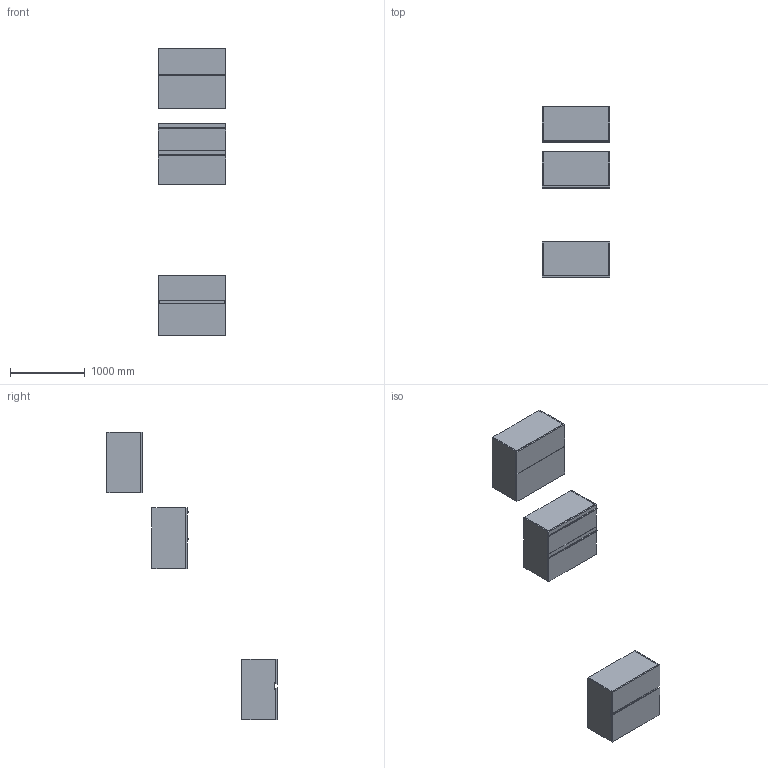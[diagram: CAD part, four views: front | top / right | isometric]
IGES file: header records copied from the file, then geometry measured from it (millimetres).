
Start section: Data from Parasolid IGES Translator 19.0.9, Copyright(c) 2006 Siemens PL M Software. All Rights Reserved.
Global section: file name: noorth-SI-H 81,2 D 47 W 90_8710.igs; native system: By Siemens PLM Incorporated; preprocessor: XPlus GENERIC/IGES 19.0.9; author: Noname; organization: Noname; date: 20200601.134227; units: metre
Bounding box: 900 x 2270 x 3842 mm (x, y, z)
Volume: 119526139.1 mm3; surface area: 18548313.5 mm2
Topology: 24 solids, 24 shells, 248 faces, 544 edges, 324 vertices
Faces by surface type: plane 164, extrusion 36, bspline 32, cylinder 16
